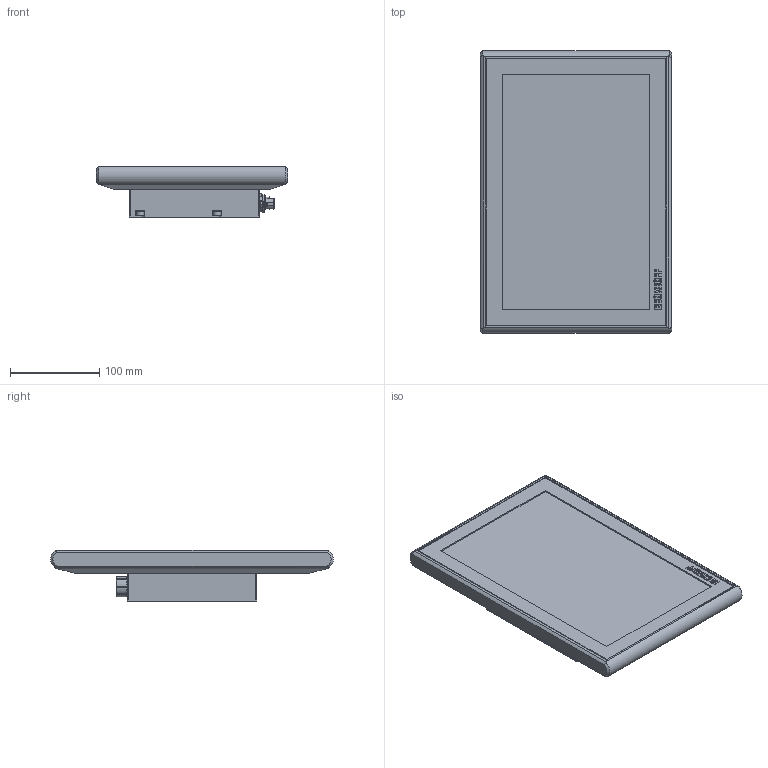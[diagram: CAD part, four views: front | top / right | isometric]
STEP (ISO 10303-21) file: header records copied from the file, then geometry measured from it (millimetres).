
FILE_DESCRIPTION(/* description */ ('','CAx-IF Rec.Pracs.---Representation and Presentation of Product Manufacturing Information (PMI)---4.0---2014-10-13'),/* implementation_level */ '2;1');
FILE_NAME(/* name */ 'X:\0-inventor\0-3d-Teile\PC-Compo\solids\CP3xxx\0-Ausgabe\CP3913-E274.stp',/* time_stamp */ '2018-08-31T12:21:30+02:00',/* author */ ('ChristianKreuzer'),/* organization */ ('Design-AG'),/* preprocessor_version */ 'ST-DEVELOPER v17',/* originating_system */ 'Autodesk Inventor 2018',/* authorisation */ '');
FILE_SCHEMA (('AP242_MANAGED_MODEL_BASED_3D_ENGINEERING_MIM_LF { 1 0 10303 442 1 1 4 }'));
Length unit declared in the file: millimetre
Products named in the file (1): CP3913-E274-Step
Bounding box: 214 x 316.36 x 58 mm (x, y, z)
Volume: 2268305.2 mm3; surface area: 345809.3 mm2
Topology: 12 solids, 14 shells, 728 faces, 1829 edges, 1172 vertices
Faces by surface type: plane 284, cylinder 277, cone 64, bspline 59, sphere 31, torus 13
Full cylindrical faces by diameter (mm): 0.5 x8, 1 x23, 4 x2, 4.3 x1, 4.917 x4, 5.9 x1, 6 x1, 6.6 x1, 7.9 x1, 8 x1, 8.5 x4, 8.8 x4, 9 x3, 11 x2, 12 x1, 16.01 x1, 18.376 x1, 20 x2, 22.5 x1, 22.7 x1
Entity records: 25870 total; most frequent: CARTESIAN_POINT 7830, DIRECTION 3598, ORIENTED_EDGE 3594, EDGE_CURVE 1797, AXIS2_PLACEMENT_3D 1361, VERTEX_POINT 1172, LINE 876, VECTOR 876
